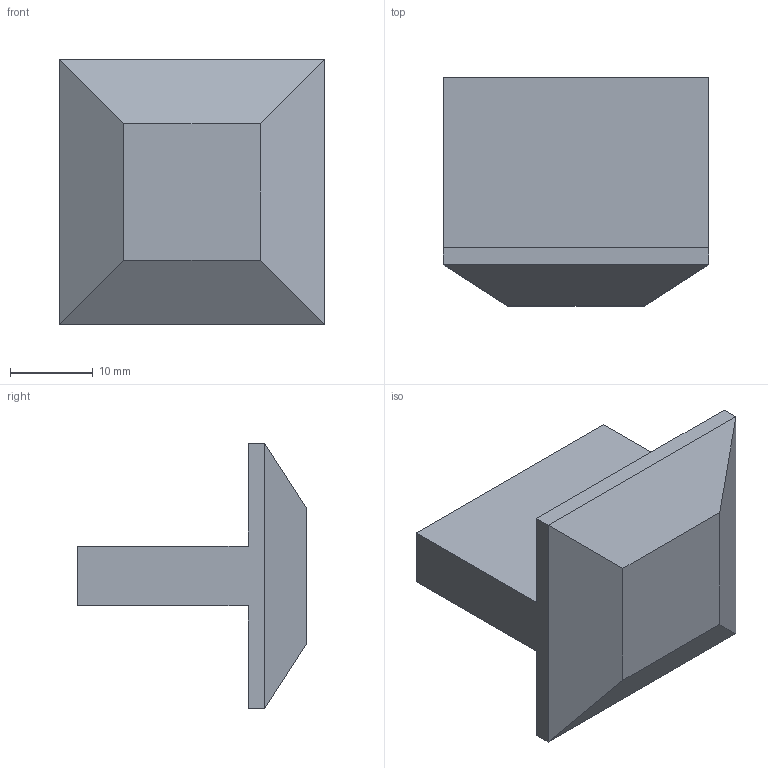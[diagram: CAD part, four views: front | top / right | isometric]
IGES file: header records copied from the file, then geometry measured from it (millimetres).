
Start section: Data from Parasolid IGES Translator 15.0.47, Copyright(c) 2006 Siemens P LM Software. All Rights Reserved.
Global section: file name: 9208066.igs; native system:  By UGS Corp.; preprocessor: XPlus GENERIC/IGES 3.0; author: Noname; organization: Noname; date: 20160119.160629; units: millimetre
Bounding box: 32 x 27.5 x 32 mm (x, y, z)
Surface area: 4305.4 mm2 (no closed solid volume)
Topology: 0 solids, 0 shells, 18 faces, 76 edges, 74 vertices
Faces by surface type: extrusion 16, revolution 2
